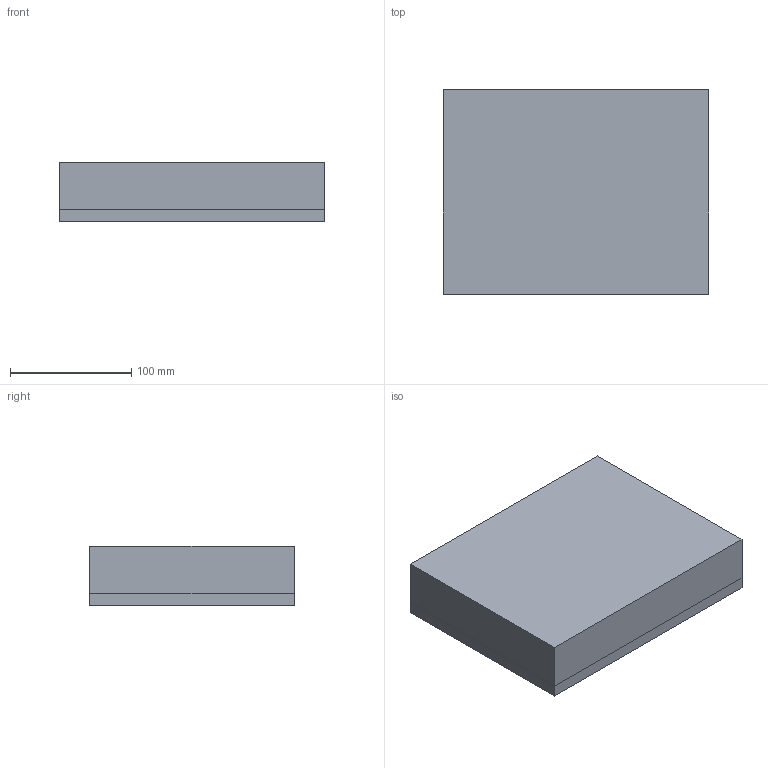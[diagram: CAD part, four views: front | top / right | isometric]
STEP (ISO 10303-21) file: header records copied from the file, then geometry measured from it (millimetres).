
FILE_DESCRIPTION(('CATIA V5 STEP Exchange'),'2;1');
FILE_NAME('C:\_Andres\UNIVERSIDAD\IQS\ASIGNATURAS\DAO\Controles\1920\c2\c2-Saus_Nin_Maria.stp','2020-02-10T15:38:35+00:00',('none'),('none'),'CATIA Version 5 Release 19 SP 3 (IN-10)','CATIA V5 STEP AP203','none');
FILE_SCHEMA(('CONFIG_CONTROL_DESIGN'));
Length unit declared in the file: millimetre
Products named in the file (1): c2-Saus_Nin_Maria
Bounding box: 219 x 169 x 49 mm (x, y, z)
Surface area: 283209.6 mm2
Topology: 3 solids, 3 shells, 103 faces, 232 edges, 128 vertices
Faces by surface type: cylinder 40, plane 27, bspline 24, sphere 12
Entity records: 3352 total; most frequent: CARTESIAN_POINT 1640, ORIENTED_EDGE 440, DIRECTION 224, EDGE_CURVE 164, EDGE_LOOP 110, ADVANCED_FACE 103, FACE_OUTER_BOUND 103, AXIS2_PLACEMENT_3D 96
